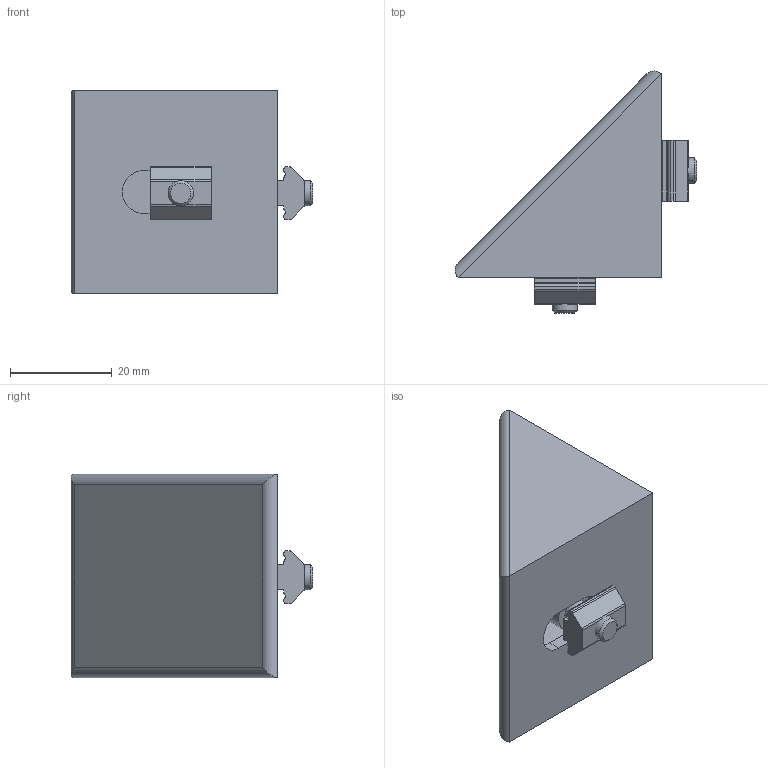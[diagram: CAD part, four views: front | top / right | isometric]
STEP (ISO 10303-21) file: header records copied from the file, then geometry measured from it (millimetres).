
FILE_DESCRIPTION(/* description */ (''),/* implementation_level */ '2;1');
FILE_NAME(/* name */ 'J:\_TEMP - INPUT - Daten Austausch\CADs\stp Dateien für homepage\GR01.052.stp',/* time_stamp */ '2016-10-27T14:06:55+02:00',/* author */ ('DFloßmann'),/* organization */ (''),/* preprocessor_version */ 'ST-DEVELOPER v16.5',/* originating_system */ 'Autodesk Inventor 2017',/* authorisation */ '');
FILE_SCHEMA (('AUTOMOTIVE_DESIGN { 1 0 10303 214 3 1 1 }'));
Length unit declared in the file: millimetre
Products named in the file (5): GR01.052; GR01.052-01; GR01.052-Cap; GR01; DIN7984-M5x10
Assembly tree (6 placements, depth 2):
  GR01.052
    GR01.052-01
    GR01.052-Cap
    GR01  x2
    DIN7984-M5x10  x2
Bounding box: 47.58 x 47.58 x 40 mm (x, y, z)
Volume: 15880.1 mm3; surface area: 15182.6 mm2
Topology: 6 solids, 6 shells, 113 faces, 286 edges, 190 vertices
Faces by surface type: plane 63, cylinder 46, cone 2, torus 2
Full cylindrical faces by diameter (mm): 4.134 x2, 5 x2, 8.5 x2
Entity records: 2176 total; most frequent: DIRECTION 374, CARTESIAN_POINT 355, ORIENTED_EDGE 328, EDGE_CURVE 164, AXIS2_PLACEMENT_3D 131, LINE 112, VECTOR 112, VERTEX_POINT 112
